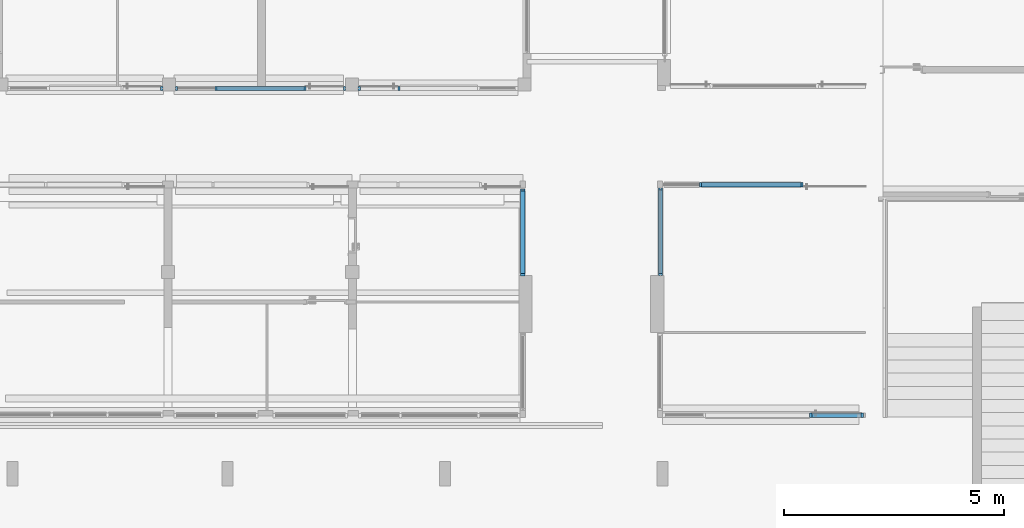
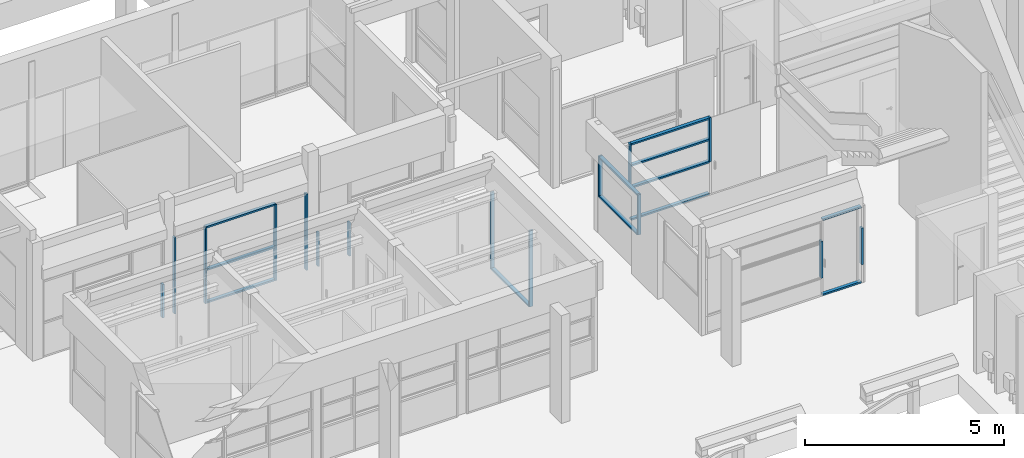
# One storey, part 12 of 117: 31 members, 7 elements without a shape of their own.
"""IFC4 building model written with IfcOpenShell, lengths in metres."""

from ifc_helpers import new_model, entity, si_unit, converted_unit, derived_unit, direction, frame, origin, place, context, subcontext, project, spatial, indexed_curve, outline, extrude, source, transform, mapped, material, type_object, type_shapes, element, aggregate, save


model = new_model("IFC4")

# Units and contexts
model_context = context("Model", 3, precision=1e-05, world=origin(), true_north=direction((6.123031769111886e-17, 1.0)))
body_context = subcontext(model_context, "Body", "Model", "MODEL_VIEW")
ifc_project = project(units=[si_unit("LENGTHUNIT", "METRE"), si_unit("AREAUNIT", "SQUARE_METRE"), si_unit("VOLUMEUNIT", "CUBIC_METRE"), converted_unit("PLANEANGLEUNIT", "DEGREE", entity("IfcRatioMeasure", 0.017453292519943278), si_unit("PLANEANGLEUNIT", "RADIAN"), dimensions=[0, 0, 0, 0, 0, 0, 0]), si_unit("MASSUNIT", "GRAM", prefix="KILO"), derived_unit("MASSDENSITYUNIT", [(si_unit("MASSUNIT", "GRAM", prefix="KILO"), 1), (si_unit("LENGTHUNIT", "METRE"), -3)]), derived_unit("MOMENTOFINERTIAUNIT", [(si_unit("LENGTHUNIT", "METRE"), 4)]), si_unit("TIMEUNIT", "SECOND"), si_unit("FREQUENCYUNIT", "HERTZ"), si_unit("THERMODYNAMICTEMPERATUREUNIT", "DEGREE_CELSIUS"), derived_unit("THERMALTRANSMITTANCEUNIT", [(si_unit("MASSUNIT", "GRAM", prefix="KILO"), 1), (si_unit("THERMODYNAMICTEMPERATUREUNIT", "KELVIN"), -1), (si_unit("TIMEUNIT", "SECOND"), -3)]), derived_unit("VOLUMETRICFLOWRATEUNIT", [(si_unit("LENGTHUNIT", "METRE"), 3), (si_unit("TIMEUNIT", "SECOND"), -1)]), derived_unit("MASSFLOWRATEUNIT", [(si_unit("MASSUNIT", "GRAM", prefix="KILO"), 1), (si_unit("TIMEUNIT", "SECOND"), -1)]), derived_unit("ROTATIONALFREQUENCYUNIT", [(si_unit("TIMEUNIT", "SECOND"), -1)]), si_unit("ELECTRICCURRENTUNIT", "AMPERE"), si_unit("ELECTRICVOLTAGEUNIT", "VOLT"), si_unit("POWERUNIT", "WATT"), si_unit("FORCEUNIT", "NEWTON", prefix="KILO"), si_unit("ILLUMINANCEUNIT", "LUX"), si_unit("LUMINOUSFLUXUNIT", "LUMEN"), si_unit("LUMINOUSINTENSITYUNIT", "CANDELA"), derived_unit("USERDEFINED", [(si_unit("MASSUNIT", "GRAM", prefix="KILO"), -1), (si_unit("LENGTHUNIT", "METRE"), -2), (si_unit("TIMEUNIT", "SECOND"), 3), (si_unit("LUMINOUSFLUXUNIT", "LUMEN"), 1)]), derived_unit("SOUNDPOWERUNIT", [(si_unit("MASSUNIT", "GRAM", prefix="KILO"), 1), (si_unit("LENGTHUNIT", "METRE"), 2), (si_unit("TIMEUNIT", "SECOND"), -3)]), derived_unit("SOUNDPRESSUREUNIT", [(si_unit("MASSUNIT", "GRAM", prefix="KILO"), 1), (si_unit("LENGTHUNIT", "METRE"), -1), (si_unit("TIMEUNIT", "SECOND"), -2)]), derived_unit("LINEARVELOCITYUNIT", [(si_unit("LENGTHUNIT", "METRE"), 1), (si_unit("TIMEUNIT", "SECOND"), -1)]), si_unit("PRESSUREUNIT", "PASCAL"), derived_unit("USERDEFINED", [(si_unit("LENGTHUNIT", "METRE"), -2), (si_unit("MASSUNIT", "GRAM", prefix="KILO"), 1), (si_unit("TIMEUNIT", "SECOND"), -2)]), derived_unit("LINEARFORCEUNIT", [(si_unit("MASSUNIT", "GRAM", prefix="KILO"), 1), (si_unit("LENGTHUNIT", "METRE"), 1), (si_unit("TIMEUNIT", "SECOND"), -2), (si_unit("LENGTHUNIT", "METRE"), -1)]), derived_unit("PLANARFORCEUNIT", [(si_unit("MASSUNIT", "GRAM", prefix="KILO"), 1), (si_unit("LENGTHUNIT", "METRE"), 1), (si_unit("TIMEUNIT", "SECOND"), -2), (si_unit("LENGTHUNIT", "METRE"), -2)])], contexts=[model_context])

# Site, building, storey
site_placement = place(None, origin())
site = spatial("IfcSite", under=ifc_project, at=site_placement, Name="Superficie", CompositionType="ELEMENT")
building_placement = place(site_placement, origin())
building = spatial("IfcBuilding", under=site, at=building_placement, CompositionType="ELEMENT")
storey_placement = place(building_placement, origin())
storey = spatial("IfcBuildingStorey", under=building, at=storey_placement, Name="Nivel 0", CompositionType="ELEMENT", Elevation=0.0)

# Curtain wall, members
curtain_wall_type = type_object("IfcCurtainWallType", Name="Muro cortina:Muro cortina - simple", PredefinedType="NOTDEFINED")
curtain_wall_1_placement = place(storey_placement, origin())
curtain_wall_1 = element("IfcCurtainWall", 1, at=curtain_wall_1_placement, inside=storey, type_object=curtain_wall_type, Name="Muro cortina:Muro cortina - simple", ObjectType="Muro cortina:Muro cortina - simple", PredefinedType="NOTDEFINED")
ifc_material = material(Name="<Unnamed>")
member_type_1 = type_object("IfcMemberType", Name="Montante rectangular:Montante rectangular - 5 x 10 cm", PredefinedType="MULLION", material=ifc_material)
shared_shape_1 = source(origin(), body_context, "Body", "SweptSolid", [
    extrude(outline(indexed_curve([(-0.05, -0.025), (0.05, -0.025), (0.05, 0.025), (-0.05, 0.025), (-0.05, -0.025)], self_intersect=False)), frame((0.0, 0.0, -2.33), z_axis=(0.0, 0.0, 1.0), x_axis=(0.0, -1.0, 0.0)), (0.0, 0.0, 1.0), 2.33),
])
type_shapes(member_type_1, [shared_shape_1])
member_1_placement = place(curtain_wall_1_placement, frame((12.781799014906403, 1.4758292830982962, 0.019999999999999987), z_axis=(0.0, 0.0, -1.0), x_axis=(0.0, -1.0, 0.0)))
member_1 = element("IfcMember", 2, at=member_1_placement, type_object=member_type_1, material=ifc_material, Name="Montante rectangular:Montante rectangular - 5 x 10 cm", ObjectType="Montante rectangular:Montante rectangular - 5 x 10 cm", PredefinedType="MULLION", context=body_context, shape_type="MappedRepresentation", body=[
    mapped(shared_shape_1, transform((0.0, 0.0, 0.0), scale=1.0)),
])
member_type_2 = type_object("IfcMemberType", Name="Montante rectangular:Montante rectangular - 5 x 10 cm", PredefinedType="MULLION", material=ifc_material)
shared_shape_2 = source(origin(), body_context, "Body", "SweptSolid", [
    extrude(outline(indexed_curve([(-0.05, -0.025), (0.05, -0.025), (0.05, 0.025), (-0.05, 0.025), (-0.05, -0.025)], self_intersect=False)), frame((0.0, 0.0, -1.8764667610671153), z_axis=(0.0, 0.0, 1.0), x_axis=(0.0, -1.0, 0.0)), (0.0, 0.0, 1.0), 1.8764667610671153),
])
type_shapes(member_type_2, [shared_shape_2])
member_2_placement = place(curtain_wall_1_placement, frame((12.781799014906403, 1.500829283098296, 0.019999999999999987), z_axis=(0.0, -1.0, 0.0), x_axis=(0.0, 0.0, 1.0)))
member_2 = element("IfcMember", 3, at=member_2_placement, type_object=member_type_2, material=ifc_material, Name="Montante rectangular:Montante rectangular - 5 x 10 cm", ObjectType="Montante rectangular:Montante rectangular - 5 x 10 cm", PredefinedType="MULLION", context=body_context, shape_type="MappedRepresentation", body=[
    mapped(shared_shape_2, transform((0.0, 0.0, 0.0), scale=1.0)),
])
member_type_3 = type_object("IfcMemberType", Name="Montante rectangular:Montante rectangular - 5 x 10 cm", PredefinedType="MULLION", material=ifc_material)
shared_shape_3 = source(origin(), body_context, "Body", "SweptSolid", [
    extrude(outline(indexed_curve([(-0.05, -0.025), (0.05, -0.025), (0.05, 0.025), (-0.05, 0.025), (-0.05, -0.025)], self_intersect=False)), frame((0.0, 0.0, -2.355), z_axis=(0.0, 0.0, 1.0), x_axis=(0.0, -1.0, 0.0)), (0.0, 0.0, 1.0), 2.355),
])
type_shapes(member_type_3, [shared_shape_3])
member_3_placement = place(curtain_wall_1_placement, frame((12.781799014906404, 3.4022960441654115, -0.005000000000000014), z_axis=(0.0, 0.0, -1.0), x_axis=(0.0, -1.0, 0.0)))
member_3 = element("IfcMember", 4, at=member_3_placement, type_object=member_type_3, material=ifc_material, Name="Montante rectangular:Montante rectangular - 5 x 10 cm", ObjectType="Montante rectangular:Montante rectangular - 5 x 10 cm", PredefinedType="MULLION", context=body_context, shape_type="MappedRepresentation", body=[
    mapped(shared_shape_3, transform((0.0, 0.0, 0.0), scale=1.0)),
])
aggregate(curtain_wall_1, [member_1, member_2, member_3])

curtain_wall_2_placement = place(storey_placement, origin())
curtain_wall_2 = element("IfcCurtainWall", 5, at=curtain_wall_2_placement, inside=storey, type_object=curtain_wall_type, Name="Muro cortina:Muro cortina - simple", ObjectType="Muro cortina:Muro cortina - simple", PredefinedType="NOTDEFINED")
member_type_4 = type_object("IfcMemberType", Name="Montante rectangular:Montante rectangular - 5 x 10 cm", PredefinedType="MULLION", material=ifc_material)
shared_shape_4 = source(origin(), body_context, "Body", "SweptSolid", [
    extrude(outline(indexed_curve([(-0.05, -0.025), (0.05, -0.025), (0.05, 0.025), (-0.05, 0.025), (-0.05, -0.025)], self_intersect=False)), frame((0.0, 0.0, -1.2299999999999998), z_axis=(0.0, 0.0, 1.0), x_axis=(0.0, -1.0, 0.0)), (0.0, 0.0, 1.0), 1.2299999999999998),
])
type_shapes(member_type_4, [shared_shape_4])
member_4_placement = place(curtain_wall_2_placement, frame((15.916799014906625, 1.4808292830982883, 1.12), z_axis=(0.0, 0.0, -1.0), x_axis=(0.0, -1.0, 0.0)))
member_4 = element("IfcMember", 6, at=member_4_placement, type_object=member_type_4, material=ifc_material, Name="Montante rectangular:Montante rectangular - 5 x 10 cm", ObjectType="Montante rectangular:Montante rectangular - 5 x 10 cm", PredefinedType="MULLION", context=body_context, shape_type="MappedRepresentation", body=[
    mapped(shared_shape_4, transform((0.0, 0.0, 0.0), scale=1.0)),
])
member_type_5 = type_object("IfcMemberType", Name="Montante rectangular:Montante rectangular - 5 x 10 cm", PredefinedType="MULLION", material=ifc_material)
shared_shape_5 = source(origin(), body_context, "Body", "SweptSolid", [
    extrude(outline(indexed_curve([(-0.05, -0.025), (0.05, -0.025), (0.05, 0.025), (-0.05, 0.025), (-0.05, -0.025)], self_intersect=False)), frame((0.0, 0.0, -1.2549999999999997), z_axis=(0.0, 0.0, 1.0), x_axis=(0.0, -1.0, 0.0)), (0.0, 0.0, 1.0), 1.2549999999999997),
])
type_shapes(member_type_5, [shared_shape_5])
member_5_placement = place(curtain_wall_2_placement, frame((15.916799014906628, 3.425713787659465, 1.0950000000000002), z_axis=(0.0, 0.0, -1.0), x_axis=(0.0, -1.0, 0.0)))
member_5 = element("IfcMember", 7, at=member_5_placement, type_object=member_type_5, material=ifc_material, Name="Montante rectangular:Montante rectangular - 5 x 10 cm", ObjectType="Montante rectangular:Montante rectangular - 5 x 10 cm", PredefinedType="MULLION", context=body_context, shape_type="MappedRepresentation", body=[
    mapped(shared_shape_5, transform((0.0, 0.0, 0.0), scale=1.0)),
])
member_type_6 = type_object("IfcMemberType", Name="Montante rectangular:Montante rectangular - 5 x 10 cm", PredefinedType="MULLION", material=ifc_material)
shared_shape_6 = source(origin(), body_context, "Body", "SweptSolid", [
    extrude(outline(indexed_curve([(-0.05, -0.025), (0.05, -0.025), (0.05, 0.025), (-0.05, 0.025), (-0.05, -0.025)], self_intersect=False)), frame((0.0, 0.0, -1.8948845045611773), z_axis=(0.0, 0.0, 1.0), x_axis=(0.0, -1.0, 0.0)), (0.0, 0.0, 1.0), 1.8948845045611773),
])
type_shapes(member_type_6, [shared_shape_6])
member_6_placement = place(curtain_wall_2_placement, frame((15.916799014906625, 1.5058292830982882, 1.12), z_axis=(0.0, -1.0, 0.0), x_axis=(0.0, 0.0, 1.0)))
member_6 = element("IfcMember", 8, at=member_6_placement, type_object=member_type_6, material=ifc_material, Name="Montante rectangular:Montante rectangular - 5 x 10 cm", ObjectType="Montante rectangular:Montante rectangular - 5 x 10 cm", PredefinedType="MULLION", context=body_context, shape_type="MappedRepresentation", body=[
    mapped(shared_shape_6, transform((0.0, 0.0, 0.0), scale=1.0)),
])
member_7_placement = place(curtain_wall_2_placement, frame((15.916799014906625, 1.5058292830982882, 2.3249999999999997), z_axis=(0.0, -1.0, 0.0), x_axis=(0.0, 0.0, 1.0)))
member_7 = element("IfcMember", 9, at=member_7_placement, type_object=member_type_6, material=ifc_material, Name="Montante rectangular:Montante rectangular - 5 x 10 cm", ObjectType="Montante rectangular:Montante rectangular - 5 x 10 cm", PredefinedType="MULLION", context=body_context, shape_type="MappedRepresentation", body=[
    mapped(shared_shape_6, transform((0.0, 0.0, 0.0), scale=1.0)),
])
aggregate(curtain_wall_2, [member_4, member_6, member_7, member_5])

curtain_wall_3_placement = place(storey_placement, origin())
curtain_wall_3 = element("IfcCurtainWall", 10, at=curtain_wall_3_placement, inside=storey, type_object=curtain_wall_type, Name="Muro cortina:Muro cortina - simple", ObjectType="Muro cortina:Muro cortina - simple", PredefinedType="NOTDEFINED")
member_type_7 = type_object("IfcMemberType", Name="Montante rectangular:Montante rectangular - 5 x 10 cm", PredefinedType="MULLION", material=ifc_material)
shared_shape_7 = source(origin(), body_context, "Body", "SweptSolid", [
    extrude(outline(indexed_curve([(-0.05, -0.025), (0.05, -0.025), (0.05, 0.025), (-0.05, 0.025), (-0.05, -0.025)], self_intersect=False)), frame((-0.025, 0.0, -2.259999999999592), z_axis=(0.0, 0.0, 1.0), x_axis=(0.0, -1.0, 0.0)), (0.0, 0.0, 1.0), 2.2599999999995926),
])
type_shapes(member_type_7, [shared_shape_7])
member_8_placement = place(curtain_wall_3_placement, frame((16.8510019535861, 3.525713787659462, 2.35), z_axis=(-1.0, 0.0, 0.0), x_axis=(0.0, 0.0, 1.0)))
member_8 = element("IfcMember", 11, at=member_8_placement, type_object=member_type_7, material=ifc_material, Name="Montante rectangular:Montante rectangular - 5 x 10 cm", ObjectType="Montante rectangular:Montante rectangular - 5 x 10 cm", PredefinedType="MULLION", context=body_context, shape_type="MappedRepresentation", body=[
    mapped(shared_shape_7, transform((0.0, 0.0, 0.0), scale=1.0)),
])
member_type_8 = type_object("IfcMemberType", Name="Montante rectangular:Montante rectangular - 5 x 10 cm", PredefinedType="MULLION", material=ifc_material)
shared_shape_8 = source(origin(), body_context, "Body", "SweptSolid", [
    extrude(outline(indexed_curve([(-0.05, -0.025), (0.05, -0.025), (0.05, 0.025), (-0.05, 0.025), (-0.05, -0.025)], self_intersect=False)), frame((0.0, 0.0, -2.2599999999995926), z_axis=(0.0, 0.0, 1.0), x_axis=(0.0, -1.0, 0.0)), (0.0, 0.0, 1.0), 2.2599999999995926),
])
type_shapes(member_type_8, [shared_shape_8])
member_9_placement = place(curtain_wall_3_placement, frame((16.8510019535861, 3.525713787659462, 1.6774999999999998), z_axis=(-1.0, 0.0, 0.0), x_axis=(0.0, 0.0, 1.0)))
member_9 = element("IfcMember", 12, at=member_9_placement, type_object=member_type_8, material=ifc_material, Name="Montante rectangular:Montante rectangular - 5 x 10 cm", ObjectType="Montante rectangular:Montante rectangular - 5 x 10 cm", PredefinedType="MULLION", context=body_context, shape_type="MappedRepresentation", body=[
    mapped(shared_shape_8, transform((0.0, 0.0, 0.0), scale=1.0)),
])
member_type_9 = type_object("IfcMemberType", Name="Montante rectangular:Montante rectangular - 5 x 10 cm", PredefinedType="MULLION", material=ifc_material)
shared_shape_9 = source(origin(), body_context, "Body", "SweptSolid", [
    extrude(outline(indexed_curve([(-0.05, -0.025), (0.05, -0.025), (0.05, 0.025), (-0.05, 0.025), (-0.05, -0.025)], self_intersect=False)), frame((0.0, 0.0, -1.35), z_axis=(0.0, 0.0, 1.0), x_axis=(0.0, -1.0, 0.0)), (0.0, 0.0, 1.0), 1.35),
])
type_shapes(member_type_9, [shared_shape_9])
member_10_placement = place(curtain_wall_3_placement, frame((19.13600195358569, 3.5257137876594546, 1.0), z_axis=(0.0, 0.0, -1.0), x_axis=(-1.0, 0.0, 0.0)))
member_10 = element("IfcMember", 13, at=member_10_placement, type_object=member_type_9, material=ifc_material, Name="Montante rectangular:Montante rectangular - 5 x 10 cm", ObjectType="Montante rectangular:Montante rectangular - 5 x 10 cm", PredefinedType="MULLION", context=body_context, shape_type="MappedRepresentation", body=[
    mapped(shared_shape_9, transform((0.0, 0.0, 0.0), scale=1.0)),
])
member_11_placement = place(curtain_wall_3_placement, frame((16.826001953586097, 3.525713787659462, 1.0), z_axis=(0.0, 0.0, -1.0), x_axis=(-1.0, 0.0, 0.0)))
member_11 = element("IfcMember", 14, at=member_11_placement, type_object=member_type_9, material=ifc_material, Name="Montante rectangular:Montante rectangular - 5 x 10 cm", ObjectType="Montante rectangular:Montante rectangular - 5 x 10 cm", PredefinedType="MULLION", context=body_context, shape_type="MappedRepresentation", body=[
    mapped(shared_shape_9, transform((0.0, 0.0, 0.0), scale=1.0)),
])
member_type_10 = type_object("IfcMemberType", Name="Montante rectangular:Montante rectangular - 5 x 10 cm", PredefinedType="MULLION", material=ifc_material)
shared_shape_10 = source(origin(), body_context, "Body", "SweptSolid", [
    extrude(outline(indexed_curve([(-0.05, -0.025), (0.05, -0.025), (0.05, 0.025), (-0.05, 0.025), (-0.05, -0.025)], self_intersect=False)), frame((0.0, 0.0, -2.2599999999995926), z_axis=(0.0, 0.0, 1.0), x_axis=(0.0, -1.0, 0.0)), (0.0, 0.0, 1.0), 2.259999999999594),
])
type_shapes(member_type_10, [shared_shape_10])
member_12_placement = place(curtain_wall_3_placement, frame((16.8510019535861, 3.525713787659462, 1.0), z_axis=(-1.0, 0.0, 0.0), x_axis=(0.0, 0.0, 1.0)))
member_12 = element("IfcMember", 15, at=member_12_placement, type_object=member_type_10, material=ifc_material, Name="Montante rectangular:Montante rectangular - 5 x 10 cm", ObjectType="Montante rectangular:Montante rectangular - 5 x 10 cm", PredefinedType="MULLION", context=body_context, shape_type="MappedRepresentation", body=[
    mapped(shared_shape_10, transform((0.0, 0.0, 0.0), scale=1.0)),
])
member_13_placement = place(curtain_wall_3_placement, frame((16.8510019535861, 3.525713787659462, 0.025), z_axis=(-1.0, 0.0, 0.0), x_axis=(0.0, 0.0, 1.0)))
member_13 = element("IfcMember", 16, at=member_13_placement, type_object=member_type_10, material=ifc_material, Name="Montante rectangular:Montante rectangular - 5 x 10 cm", ObjectType="Montante rectangular:Montante rectangular - 5 x 10 cm", PredefinedType="MULLION", context=body_context, shape_type="MappedRepresentation", body=[
    mapped(shared_shape_10, transform((0.0, 0.0, 0.0), scale=1.0)),
])
aggregate(curtain_wall_3, [member_8, member_9, member_10, member_11, member_12, member_13])

# Curtain wall, member
curtain_wall_4_placement = place(storey_placement, origin())
curtain_wall_4 = element("IfcCurtainWall", 17, at=curtain_wall_4_placement, inside=storey, type_object=curtain_wall_type, Name="Muro cortina:Muro cortina - simple", ObjectType="Muro cortina:Muro cortina - simple", PredefinedType="NOTDEFINED")
member_type_11 = type_object("IfcMemberType", Name="Montante rectangular:Montante rectangular - 5 x 10 cm", PredefinedType="MULLION", material=ifc_material)
shared_shape_11 = source(origin(), body_context, "Body", "SweptSolid", [
    extrude(outline(indexed_curve([(-0.05, -0.025), (0.05, -0.025), (0.05, 0.025), (-0.05, 0.025), (-0.05, -0.025)], self_intersect=False)), frame((0.0, 0.0, -1.0250000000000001), z_axis=(0.0, 0.0, 1.0), x_axis=(0.0, -1.0, 0.0)), (0.0, 0.0, 1.0), 1.0250000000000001),
])
type_shapes(member_type_11, [shared_shape_11])
member_14_placement = place(curtain_wall_4_placement, frame((9.961552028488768, 5.716739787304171, -0.005000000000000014), z_axis=(0.0, 0.0, -1.0), x_axis=(1.0, 0.0, 0.0)))
member_14 = element("IfcMember", 18, at=member_14_placement, type_object=member_type_11, material=ifc_material, Name="Montante rectangular:Montante rectangular - 5 x 10 cm", ObjectType="Montante rectangular:Montante rectangular - 5 x 10 cm", PredefinedType="MULLION", context=body_context, shape_type="MappedRepresentation", body=[
    mapped(shared_shape_11, transform((0.0, 0.0, 0.0), scale=1.0)),
])

# Curtain wall, members
curtain_wall_5_placement = place(storey_placement, origin())
curtain_wall_5 = element("IfcCurtainWall", 19, at=curtain_wall_5_placement, inside=storey, type_object=curtain_wall_type, Name="Muro cortina:Muro cortina - simple", ObjectType="Muro cortina:Muro cortina - simple", PredefinedType="NOTDEFINED")
member_15_placement = place(curtain_wall_5_placement, frame((4.901552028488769, 5.716739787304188, -0.005000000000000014), z_axis=(0.0, 0.0, -1.0), x_axis=(1.0, 0.0, 0.0)))
member_15 = element("IfcMember", 20, at=member_15_placement, type_object=member_type_11, material=ifc_material, Name="Montante rectangular:Montante rectangular - 5 x 10 cm", ObjectType="Montante rectangular:Montante rectangular - 5 x 10 cm", PredefinedType="MULLION", context=body_context, shape_type="MappedRepresentation", body=[
    mapped(shared_shape_11, transform((0.0, 0.0, 0.0), scale=1.0)),
])
member_16_placement = place(curtain_wall_5_placement, frame((5.801552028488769, 5.716739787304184, -0.005000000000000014), z_axis=(0.0, 0.0, -1.0), x_axis=(1.0, 0.0, 0.0)))
member_16 = element("IfcMember", 21, at=member_16_placement, type_object=member_type_11, material=ifc_material, Name="Montante rectangular:Montante rectangular - 5 x 10 cm", ObjectType="Montante rectangular:Montante rectangular - 5 x 10 cm", PredefinedType="MULLION", context=body_context, shape_type="MappedRepresentation", body=[
    mapped(shared_shape_11, transform((0.0, 0.0, 0.0), scale=1.0)),
])
member_17_placement = place(curtain_wall_5_placement, frame((7.82155202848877, 5.716739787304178, -0.005000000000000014), z_axis=(0.0, 0.0, -1.0), x_axis=(1.0, 0.0, 0.0)))
member_17 = element("IfcMember", 22, at=member_17_placement, type_object=member_type_11, material=ifc_material, Name="Montante rectangular:Montante rectangular - 5 x 10 cm", ObjectType="Montante rectangular:Montante rectangular - 5 x 10 cm", PredefinedType="MULLION", context=body_context, shape_type="MappedRepresentation", body=[
    mapped(shared_shape_11, transform((0.0, 0.0, 0.0), scale=1.0)),
])
member_type_12 = type_object("IfcMemberType", Name="Montante rectangular:Montante rectangular - 5 x 10 cm", PredefinedType="MULLION", material=ifc_material)
shared_shape_12 = source(origin(), body_context, "Body", "SweptSolid", [
    extrude(outline(indexed_curve([(-0.05, -0.025), (0.05, -0.025), (0.05, 0.025), (-0.05, 0.025), (-0.05, -0.025)], self_intersect=False)), frame((0.0, 0.0, -1.3099999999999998), z_axis=(0.0, 0.0, 1.0), x_axis=(0.0, -1.0, 0.0)), (0.0, 0.0, 1.0), 1.3099999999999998),
])
type_shapes(member_type_12, [shared_shape_12])
member_18_placement = place(curtain_wall_5_placement, frame((4.901552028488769, 5.716739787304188, 1.0200000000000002), z_axis=(0.0, 0.0, -1.0), x_axis=(1.0, 0.0, 0.0)))
member_18 = element("IfcMember", 23, at=member_18_placement, type_object=member_type_12, material=ifc_material, Name="Montante rectangular:Montante rectangular - 5 x 10 cm", ObjectType="Montante rectangular:Montante rectangular - 5 x 10 cm", PredefinedType="MULLION", context=body_context, shape_type="MappedRepresentation", body=[
    mapped(shared_shape_12, transform((0.0, 0.0, 0.0), scale=1.0)),
])
member_19_placement = place(curtain_wall_5_placement, frame((5.801552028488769, 5.716739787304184, 1.0199999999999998), z_axis=(0.0, 0.0, -1.0), x_axis=(1.0, 0.0, 0.0)))
member_19 = element("IfcMember", 24, at=member_19_placement, type_object=member_type_12, material=ifc_material, Name="Montante rectangular:Montante rectangular - 5 x 10 cm", ObjectType="Montante rectangular:Montante rectangular - 5 x 10 cm", PredefinedType="MULLION", context=body_context, shape_type="MappedRepresentation", body=[
    mapped(shared_shape_12, transform((0.0, 0.0, 0.0), scale=1.0)),
])
member_20_placement = place(curtain_wall_5_placement, frame((7.82155202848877, 5.716739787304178, 1.02), z_axis=(0.0, 0.0, -1.0), x_axis=(1.0, 0.0, 0.0)))
member_20 = element("IfcMember", 25, at=member_20_placement, type_object=member_type_12, material=ifc_material, Name="Montante rectangular:Montante rectangular - 5 x 10 cm", ObjectType="Montante rectangular:Montante rectangular - 5 x 10 cm", PredefinedType="MULLION", context=body_context, shape_type="MappedRepresentation", body=[
    mapped(shared_shape_12, transform((0.0, 0.0, 0.0), scale=1.0)),
])

# Curtain wall, member
curtain_wall_6_placement = place(storey_placement, origin())
curtain_wall_6 = element("IfcCurtainWall", 26, at=curtain_wall_6_placement, inside=storey, type_object=curtain_wall_type, Name="Muro cortina:Muro cortina - simple", ObjectType="Muro cortina:Muro cortina - simple", PredefinedType="NOTDEFINED")
member_type_13 = type_object("IfcMemberType", Name="Montante rectangular:Montante rectangular - 5 x 10 cm", PredefinedType="MULLION", material=ifc_material)
shared_shape_13 = source(origin(), body_context, "Body", "SweptSolid", [
    extrude(outline(indexed_curve([(-0.05, -0.025), (0.05, -0.025), (0.05, 0.025), (-0.05, 0.025), (-0.05, -0.025)], self_intersect=False)), frame((0.0, 0.0, -1.0250000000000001), z_axis=(0.0, 0.0, 1.0), x_axis=(0.0, -1.0, 0.0)), (0.0, 0.0, 1.0), 1.0250000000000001),
])
type_shapes(member_type_13, [shared_shape_13])
member_21_placement = place(curtain_wall_6_placement, frame((4.56155202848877, 5.7167397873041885, -0.005000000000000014), z_axis=(0.0, 0.0, -1.0), x_axis=(1.0, 0.0, 0.0)))
member_21 = element("IfcMember", 27, at=member_21_placement, type_object=member_type_13, material=ifc_material, Name="Montante rectangular:Montante rectangular - 5 x 10 cm", ObjectType="Montante rectangular:Montante rectangular - 5 x 10 cm", PredefinedType="MULLION", context=body_context, shape_type="MappedRepresentation", body=[
    mapped(shared_shape_13, transform((0.0, 0.0, 0.0), scale=1.0)),
])
aggregate(curtain_wall_6, [member_21])

# Member
member_22_placement = place(curtain_wall_4_placement, frame((9.06155202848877, 5.716739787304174, -0.005000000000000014), z_axis=(0.0, 0.0, -1.0), x_axis=(1.0, 0.0, 0.0)))
member_22 = element("IfcMember", 28, at=member_22_placement, type_object=member_type_13, material=ifc_material, Name="Montante rectangular:Montante rectangular - 5 x 10 cm", ObjectType="Montante rectangular:Montante rectangular - 5 x 10 cm", PredefinedType="MULLION", context=body_context, shape_type="MappedRepresentation", body=[
    mapped(shared_shape_13, transform((0.0, 0.0, 0.0), scale=1.0)),
])

aggregate(curtain_wall_4, [member_22, member_14])

member_23_placement = place(curtain_wall_5_placement, frame((8.72155202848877, 5.716739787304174, -0.005000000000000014), z_axis=(0.0, 0.0, -1.0), x_axis=(1.0, 0.0, 0.0)))
member_23 = element("IfcMember", 29, at=member_23_placement, type_object=member_type_13, material=ifc_material, Name="Montante rectangular:Montante rectangular - 5 x 10 cm", ObjectType="Montante rectangular:Montante rectangular - 5 x 10 cm", PredefinedType="MULLION", context=body_context, shape_type="MappedRepresentation", body=[
    mapped(shared_shape_13, transform((0.0, 0.0, 0.0), scale=1.0)),
])

member_type_14 = type_object("IfcMemberType", Name="Montante rectangular:Montante rectangular - 5 x 10 cm", PredefinedType="MULLION", material=ifc_material)
shared_shape_14 = source(origin(), body_context, "Body", "SweptSolid", [
    extrude(outline(indexed_curve([(-0.05, -0.025), (0.05, -0.025), (0.05, 0.025), (-0.05, 0.025), (-0.05, -0.025)], self_intersect=False)), frame((-0.025, 0.0, -2.0200000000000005), z_axis=(0.0, 0.0, 1.0), x_axis=(0.0, -1.0, 0.0)), (0.0, 0.0, 1.0), 2.020000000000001),
])
type_shapes(member_type_14, [shared_shape_14])
member_24_placement = place(curtain_wall_5_placement, frame((7.82155202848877, 5.716739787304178, 2.3499999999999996), z_axis=(1.0, 0.0, 0.0), x_axis=(0.0, 0.0, 1.0)))
member_24 = element("IfcMember", 30, at=member_24_placement, type_object=member_type_14, material=ifc_material, Name="Montante rectangular:Montante rectangular - 5 x 10 cm", ObjectType="Montante rectangular:Montante rectangular - 5 x 10 cm", PredefinedType="MULLION", context=body_context, shape_type="MappedRepresentation", body=[
    mapped(shared_shape_14, transform((0.0, 0.0, 0.0), scale=1.0)),
])

member_type_15 = type_object("IfcMemberType", Name="Montante rectangular:Montante rectangular - 5 x 10 cm", PredefinedType="MULLION", material=ifc_material)
shared_shape_15 = source(origin(), body_context, "Body", "SweptSolid", [
    extrude(outline(indexed_curve([(-0.05, -0.025), (0.05, -0.025), (0.05, 0.025), (-0.05, 0.025), (-0.05, -0.025)], self_intersect=False)), frame((0.0, 0.0, -1.9700000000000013), z_axis=(0.0, 0.0, 1.0), x_axis=(0.0, -1.0, 0.0)), (0.0, 0.0, 1.0), 1.970000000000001),
])
type_shapes(member_type_15, [shared_shape_15])
member_25_placement = place(curtain_wall_5_placement, frame((7.796552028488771, 5.716739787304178, 0.019999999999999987), z_axis=(1.0, 0.0, 0.0), x_axis=(0.0, 0.0, 1.0)))
member_25 = element("IfcMember", 31, at=member_25_placement, type_object=member_type_15, material=ifc_material, Name="Montante rectangular:Montante rectangular - 5 x 10 cm", ObjectType="Montante rectangular:Montante rectangular - 5 x 10 cm", PredefinedType="MULLION", context=body_context, shape_type="MappedRepresentation", body=[
    mapped(shared_shape_15, transform((0.0, 0.0, 0.0), scale=1.0)),
])

member_26_placement = place(curtain_wall_5_placement, frame((7.796552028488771, 5.716739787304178, 1.02), z_axis=(1.0, 0.0, 0.0), x_axis=(0.0, 0.0, 1.0)))
member_26 = element("IfcMember", 32, at=member_26_placement, type_object=member_type_15, material=ifc_material, Name="Montante rectangular:Montante rectangular - 5 x 10 cm", ObjectType="Montante rectangular:Montante rectangular - 5 x 10 cm", PredefinedType="MULLION", context=body_context, shape_type="MappedRepresentation", body=[
    mapped(shared_shape_15, transform((0.0, 0.0, 0.0), scale=1.0)),
])

member_type_16 = type_object("IfcMemberType", Name="Montante rectangular:Montante rectangular - 5 x 10 cm", PredefinedType="MULLION", material=ifc_material)
shared_shape_16 = source(origin(), body_context, "Body", "SweptSolid", [
    extrude(outline(indexed_curve([(-0.05, -0.025), (0.05, -0.025), (0.05, 0.025), (-0.05, 0.025), (-0.05, -0.025)], self_intersect=False)), frame((0.0, 0.0, -1.3099999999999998), z_axis=(0.0, 0.0, 1.0), x_axis=(0.0, -1.0, 0.0)), (0.0, 0.0, 1.0), 1.3099999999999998),
])
type_shapes(member_type_16, [shared_shape_16])
member_27_placement = place(curtain_wall_5_placement, frame((8.72155202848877, 5.716739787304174, 1.0200000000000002), z_axis=(0.0, 0.0, -1.0), x_axis=(1.0, 0.0, 0.0)))
member_27 = element("IfcMember", 33, at=member_27_placement, type_object=member_type_16, material=ifc_material, Name="Montante rectangular:Montante rectangular - 5 x 10 cm", ObjectType="Montante rectangular:Montante rectangular - 5 x 10 cm", PredefinedType="MULLION", context=body_context, shape_type="MappedRepresentation", body=[
    mapped(shared_shape_16, transform((0.0, 0.0, 0.0), scale=1.0)),
])

aggregate(curtain_wall_5, [member_15, member_23, member_24, member_25, member_16, member_17, member_18, member_27, member_19, member_20, member_26])

# Curtain wall, members
curtain_wall_7_placement = place(storey_placement, origin())
curtain_wall_7 = element("IfcCurtainWall", 34, at=curtain_wall_7_placement, inside=storey, type_object=curtain_wall_type, Name="Muro cortina:Muro cortina - simple", ObjectType="Muro cortina:Muro cortina - simple", PredefinedType="NOTDEFINED")
member_type_17 = type_object("IfcMemberType", Name="Montante rectangular:Montante rectangular - 5 x 10 cm", PredefinedType="MULLION", material=ifc_material)
shared_shape_17 = source(origin(), body_context, "Body", "SweptSolid", [
    extrude(outline(indexed_curve([(-0.05, -0.025), (0.05, -0.025), (0.05, 0.025), (-0.05, 0.025), (-0.05, -0.025)], self_intersect=False)), frame((0.0, 0.0, -1.125), z_axis=(0.0, 0.0, 1.0), x_axis=(0.0, -1.0, 0.0)), (0.0, 0.0, 1.0), 1.125),
])
type_shapes(member_type_17, [shared_shape_17])
member_28_placement = place(curtain_wall_7_placement, frame((19.336799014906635, -1.7241707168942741, 0.55), z_axis=(0.0, 0.0, -1.0), x_axis=(-1.0, 0.0, 0.0)))
member_28 = element("IfcMember", 35, at=member_28_placement, type_object=member_type_17, material=ifc_material, Name="Montante rectangular:Montante rectangular - 5 x 10 cm", ObjectType="Montante rectangular:Montante rectangular - 5 x 10 cm", PredefinedType="MULLION", context=body_context, shape_type="MappedRepresentation", body=[
    mapped(shared_shape_17, transform((0.0, 0.0, 0.0), scale=1.0)),
])
member_type_18 = type_object("IfcMemberType", Name="Montante rectangular:Montante rectangular - 5 x 10 cm", PredefinedType="MULLION", material=ifc_material)
shared_shape_18 = source(origin(), body_context, "Body", "SweptSolid", [
    extrude(outline(indexed_curve([(-0.05, -0.025), (0.05, -0.025), (0.05, 0.025), (-0.05, 0.025), (-0.05, -0.025)], self_intersect=False)), frame((-0.025, 0.0, -1.124999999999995), z_axis=(0.0, 0.0, 1.0), x_axis=(0.0, -1.0, 0.0)), (0.0, 0.0, 1.0), 1.124999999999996),
])
type_shapes(member_type_18, [shared_shape_18])
member_29_placement = place(curtain_wall_7_placement, frame((19.361799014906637, -1.7241707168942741, 2.35), z_axis=(-1.0, 0.0, 0.0), x_axis=(0.0, 0.0, 1.0)))
member_29 = element("IfcMember", 36, at=member_29_placement, type_object=member_type_18, material=ifc_material, Name="Montante rectangular:Montante rectangular - 5 x 10 cm", ObjectType="Montante rectangular:Montante rectangular - 5 x 10 cm", PredefinedType="MULLION", context=body_context, shape_type="MappedRepresentation", body=[
    mapped(shared_shape_18, transform((0.0, 0.0, 0.0), scale=1.0)),
])
member_type_19 = type_object("IfcMemberType", Name="Montante rectangular:Montante rectangular - 5 x 10 cm", PredefinedType="MULLION", material=ifc_material)
shared_shape_19 = source(origin(), body_context, "Body", "SweptSolid", [
    extrude(outline(indexed_curve([(-0.05, -0.025), (0.05, -0.025), (0.05, 0.025), (-0.05, 0.025), (-0.05, -0.025)], self_intersect=False)), frame((-0.025, 0.0, -1.1249999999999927), z_axis=(0.0, 0.0, 1.0), x_axis=(0.0, -1.0, 0.0)), (0.0, 0.0, 1.0), 1.1249999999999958),
])
type_shapes(member_type_19, [shared_shape_19])
member_30_placement = place(curtain_wall_7_placement, frame((20.486799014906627, -1.724170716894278, 0.0), z_axis=(1.0, 0.0, 0.0), x_axis=(0.0, 0.0, -1.0)))
member_30 = element("IfcMember", 37, at=member_30_placement, type_object=member_type_19, material=ifc_material, Name="Montante rectangular:Montante rectangular - 5 x 10 cm", ObjectType="Montante rectangular:Montante rectangular - 5 x 10 cm", PredefinedType="MULLION", context=body_context, shape_type="MappedRepresentation", body=[
    mapped(shared_shape_19, transform((0.0, 0.0, 0.0), scale=1.0)),
])
member_type_20 = type_object("IfcMemberType", Name="Montante rectangular:Montante rectangular - 5 x 10 cm", PredefinedType="MULLION", material=ifc_material)
shared_shape_20 = source(origin(), body_context, "Body", "SweptSolid", [
    extrude(outline(indexed_curve([(-0.05, -0.025), (0.05, -0.025), (0.05, 0.025), (-0.05, 0.025), (-0.05, -0.025)], self_intersect=False)), frame((-0.025, 0.0, -1.125), z_axis=(0.0, 0.0, 1.0), x_axis=(0.0, -1.0, 0.0)), (0.0, 0.0, 1.0), 1.125),
])
type_shapes(member_type_20, [shared_shape_20])
member_31_placement = place(curtain_wall_7_placement, frame((20.53679901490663, -1.7241707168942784, 1.675)))
member_31 = element("IfcMember", 38, at=member_31_placement, type_object=member_type_20, material=ifc_material, Name="Montante rectangular:Montante rectangular - 5 x 10 cm", ObjectType="Montante rectangular:Montante rectangular - 5 x 10 cm", PredefinedType="MULLION", context=body_context, shape_type="MappedRepresentation", body=[
    mapped(shared_shape_20, transform((0.0, 0.0, 0.0), scale=1.0)),
])
aggregate(curtain_wall_7, [member_28, member_29, member_30, member_31])

save(model, "model.ifc")
